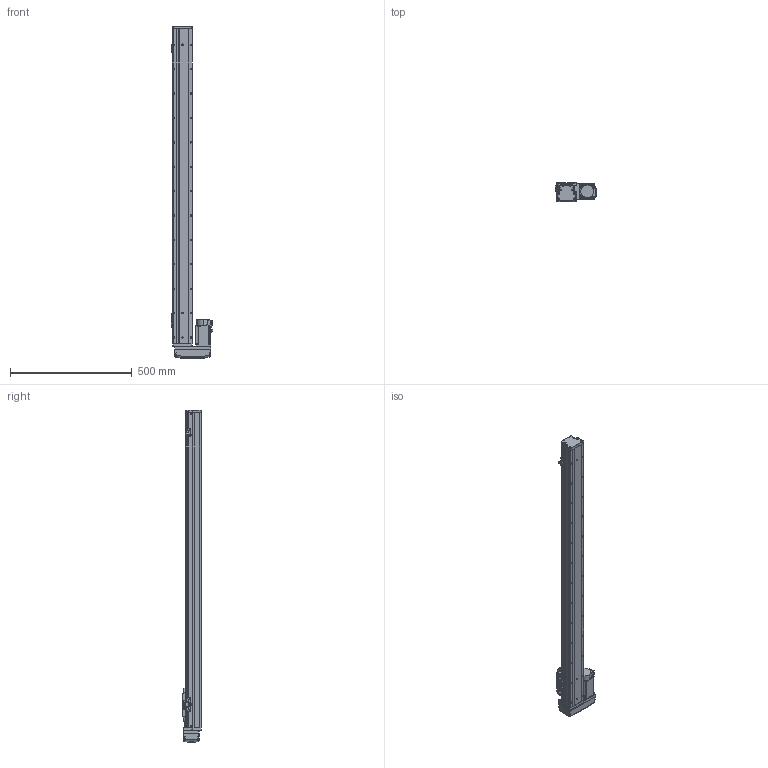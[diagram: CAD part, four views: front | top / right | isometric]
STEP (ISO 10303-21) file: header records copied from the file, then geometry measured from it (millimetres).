
FILE_DESCRIPTION (( 'STEP AP203' ), '1' );
FILE_NAME ('GTH8-1100-BR-M20-C4.step', '2022-09-23T01:09:06', ( '微软用户' ), ( '微软中国' ), 'SwSTEP 2.0', 'SolidWorks 2020', '' );
FILE_SCHEMA (( 'CONFIG_CONTROL_DESIGN' ));
Length unit declared in the file: millimetre
Products named in the file (18): GTH80-004; GBT 70.1-M4×16; CTHA86-015-1_CTHA86-015-2; GTH80-006; GTH80-028; CTHA86-033_M40B; GTH80-013; GTH50-024; GTH8-1100-BR-M20-C4; GBT 70.3-M3℅6; GTH50-023; GTH80-022; GBT96.1-2002 3×0.8; GTH80-001_1100; GBT 70.1-M3℅6; BTH-M3X5X6; GTH80-003; hg-kn43j_-s100_
Assembly tree (57 placements, depth 2):
  GTH8-1100-BR-M20-C4
    GTH80-001_1100
    GTH80-003
    GTH80-004
    GTH80-006
    GTH80-013
    GBT 70.3-M3℅6  x4
    GTH80-022
    GBT 70.1-M3℅6  x14
    GBT 70.1-M4×16  x8
    GTH80-028  x2
    GTH50-024  x3
    GTH50-023  x3
    GBT96.1-2002 3×0.8  x6
    BTH-M3X5X6  x8
    hg-kn43j_-s100_
    CTHA86-015-1_CTHA86-015-2
    CTHA86-033_M40B
Bounding box: 169.7 x 78 x 1361 mm (x, y, z)
Volume: 6572724 mm3; surface area: 630686.9 mm2
Topology: 59 solids, 59 shells, 2260 faces, 5235 edges, 3211 vertices
Faces by surface type: plane 1187, cylinder 631, cone 260, torus 166, bspline 8, sphere 8
Entity records: 41662 total; most frequent: CARTESIAN_POINT 7313, DIRECTION 6789, ORIENTED_EDGE 6288, EDGE_CURVE 3144, AXIS2_PLACEMENT_3D 2385, VECTOR 2019, LINE 2019, VERTEX_POINT 1986
